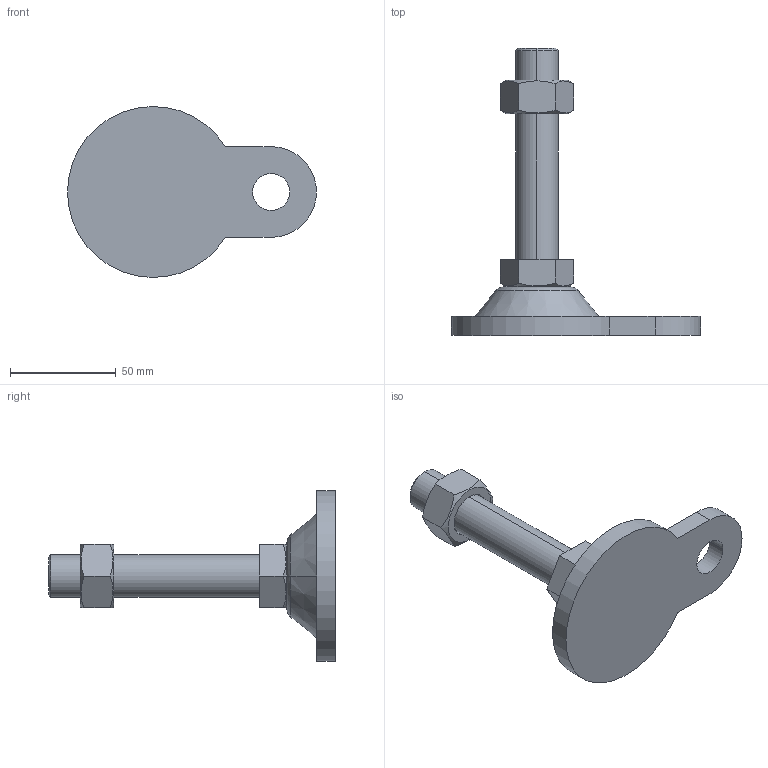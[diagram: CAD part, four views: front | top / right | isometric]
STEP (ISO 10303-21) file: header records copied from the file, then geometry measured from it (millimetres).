
FILE_DESCRIPTION (( 'STEP AP214' ), '1' );
FILE_NAME ('ARB81-M20-100.step', '2021-01-07T07:17:59', ( '' ), ( '' ), 'SwSTEP 2.0', 'SolidWorks 2019', '' );
FILE_SCHEMA (( 'AUTOMOTIVE_DESIGN' ));
Length unit declared in the file: millimetre
Products named in the file (1): ARB81-M20-100
Bounding box: 118 x 136 x 80.98 mm (x, y, z)
Volume: 131391.7 mm3; surface area: 29627.9 mm2
Topology: 3 solids, 3 shells, 46 faces, 104 edges, 66 vertices
Faces by surface type: plane 22, cone 14, cylinder 8, torus 2
Entity records: 1514 total; most frequent: CARTESIAN_POINT 431, DIRECTION 212, ORIENTED_EDGE 208, EDGE_CURVE 104, AXIS2_PLACEMENT_3D 83, VERTEX_POINT 66, EDGE_LOOP 52, VECTOR 46
